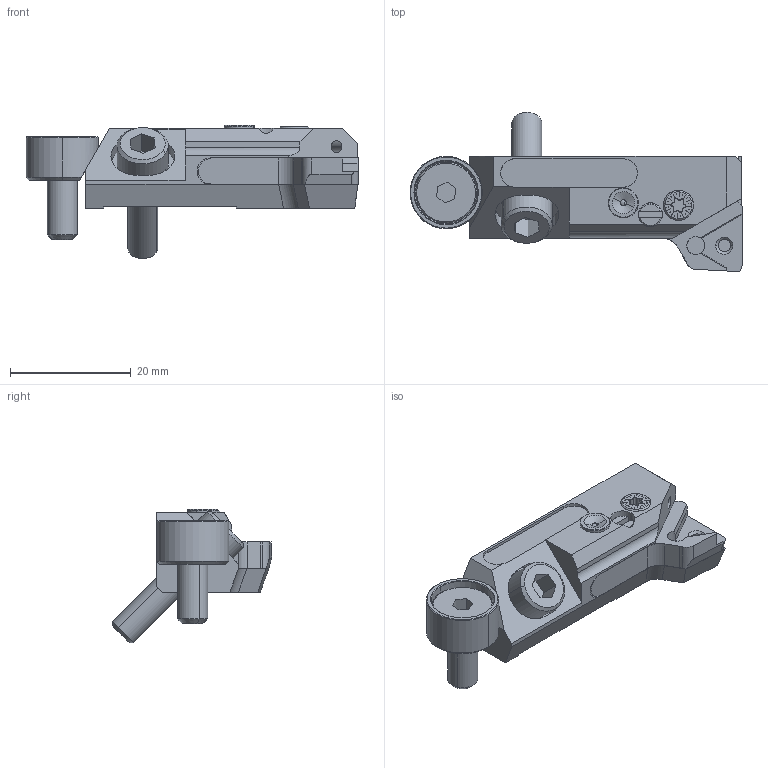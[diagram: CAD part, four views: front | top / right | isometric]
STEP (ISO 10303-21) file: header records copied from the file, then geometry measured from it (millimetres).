
FILE_DESCRIPTION (( 'STEP AP203' ), '1' );
FILE_NAME ('UFP-1190LH.STEP', '2022-10-07T09:40:41', ( '' ), ( '' ), 'SwSTEP 2.0', 'SolidWorks 2019', '' );
FILE_SCHEMA (( 'CONFIG_CONTROL_DESIGN' ));
Length unit declared in the file: millimetre
Products named in the file (1): UFP-1190LH
Bounding box: 55.1 x 26.44 x 22.1 mm (x, y, z)
Volume: 7767.1 mm3; surface area: 6895.1 mm2
Topology: 13 solids, 13 shells, 511 faces, 1334 edges, 866 vertices
Faces by surface type: plane 288, cylinder 119, cone 88, torus 12, sphere 2, bspline 2
Entity records: 17542 total; most frequent: CARTESIAN_POINT 4804, ORIENTED_EDGE 2654, DIRECTION 2614, EDGE_CURVE 1327, LINE 876, VECTOR 876, AXIS2_PLACEMENT_3D 869, VERTEX_POINT 863
